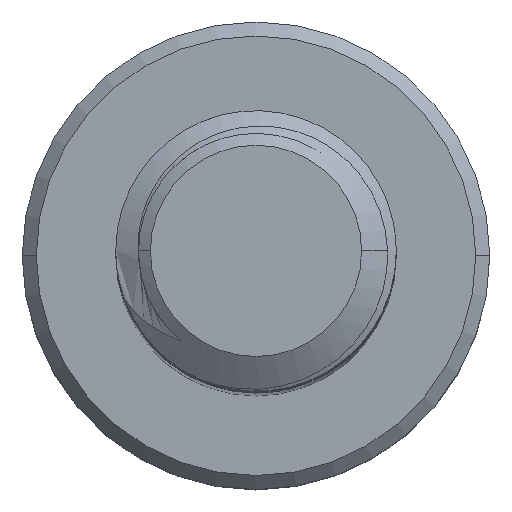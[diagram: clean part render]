
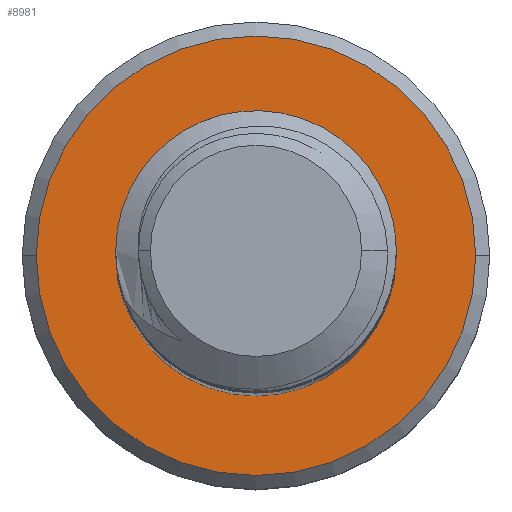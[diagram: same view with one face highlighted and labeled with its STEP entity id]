
A CAD part, top view. The second image highlights one B-rep face of the part: STEP entity #8981.
In plain terms, the highlighted planar face has unit normal (0, 0, 1).
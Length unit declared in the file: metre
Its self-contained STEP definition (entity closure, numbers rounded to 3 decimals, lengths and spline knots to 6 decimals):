
#104 = AXIS2_PLACEMENT_3D ( 'NONE', #6157, #10446, #283 ) ;
#127 = CARTESIAN_POINT ( 'NONE',  ( 0., 0., -0.06 ) ) ;
#180 = DIRECTION ( 'NONE',  ( -1., 0., 0. ) ) ;
#276 = CARTESIAN_POINT ( 'NONE',  ( 0., 0., -0.06 ) ) ;
#283 = DIRECTION ( 'NONE',  ( -1., 0., 0. ) ) ;
#398 = EDGE_LOOP ( 'NONE', ( #6577, #1598 ) ) ;
#597 = VERTEX_POINT ( 'NONE', #3068 ) ;
#1241 = DIRECTION ( 'NONE',  ( 0., 0., 1. ) ) ;
#1598 = ORIENTED_EDGE ( 'NONE', *, *, #5898, .F. ) ;
#1629 = VERTEX_POINT ( 'NONE', #5995 ) ;
#1670 = EDGE_CURVE ( 'NONE', #10464, #597, #2228, .T. ) ;
#1694 = AXIS2_PLACEMENT_3D ( 'NONE', #127, #2025, #180 ) ;
#1734 = FACE_OUTER_BOUND ( 'NONE', #7298, .T. ) ;
#1897 = FACE_BOUND ( 'NONE', #398, .T. ) ;
#2025 = DIRECTION ( 'NONE',  ( 0., 0., 1. ) ) ;
#2228 = CIRCLE ( 'NONE', #1694, 0.0047 ) ;
#2458 = CARTESIAN_POINT ( 'NONE',  ( 0.0047, 0., -0.06 ) ) ;
#2498 = DIRECTION ( 'NONE',  ( -1., 0., 0. ) ) ;
#2962 = DIRECTION ( 'NONE',  ( -1., 0., 0. ) ) ;
#2969 = AXIS2_PLACEMENT_3D ( 'NONE', #8523, #9279, #2498 ) ;
#3068 = CARTESIAN_POINT ( 'NONE',  ( -0.0047, 0., -0.06 ) ) ;
#3160 = ORIENTED_EDGE ( 'NONE', *, *, #7562, .T. ) ;
#3801 = CARTESIAN_POINT ( 'NONE',  ( -0.003, 0., -0.06 ) ) ;
#5051 = DIRECTION ( 'NONE',  ( -1., 0., 0. ) ) ;
#5484 = EDGE_CURVE ( 'NONE', #1629, #9229, #6360, .T. ) ;
#5898 = EDGE_CURVE ( 'NONE', #9229, #1629, #8366, .T. ) ;
#5995 = CARTESIAN_POINT ( 'NONE',  ( 0.003, 0., -0.06 ) ) ;
#6157 = CARTESIAN_POINT ( 'NONE',  ( 0., 0., -0.06 ) ) ;
#6360 = CIRCLE ( 'NONE', #104, 0.003 ) ;
#6577 = ORIENTED_EDGE ( 'NONE', *, *, #5484, .F. ) ;
#6902 = ORIENTED_EDGE ( 'NONE', *, *, #1670, .T. ) ;
#7298 = EDGE_LOOP ( 'NONE', ( #3160, #6902 ) ) ;
#7562 = EDGE_CURVE ( 'NONE', #597, #10464, #7650, .T. ) ;
#7650 = CIRCLE ( 'NONE', #2969, 0.0047 ) ;
#7856 = CARTESIAN_POINT ( 'NONE',  ( 0., 0., -0.06 ) ) ;
#8366 = CIRCLE ( 'NONE', #8733, 0.003 ) ;
#8523 = CARTESIAN_POINT ( 'NONE',  ( 0., 0., -0.06 ) ) ;
#8733 = AXIS2_PLACEMENT_3D ( 'NONE', #7856, #1241, #2962 ) ;
#8884 = AXIS2_PLACEMENT_3D ( 'NONE', #276, #10000, #5051 ) ;
#8981 = ADVANCED_FACE ( 'NONE', ( #1734, #1897 ), #9281, .F. ) ;
#9229 = VERTEX_POINT ( 'NONE', #3801 ) ;
#9279 = DIRECTION ( 'NONE',  ( 0., 0., 1. ) ) ;
#9281 = PLANE ( 'NONE',  #8884 ) ;
#10000 = DIRECTION ( 'NONE',  ( 0., 0., -1. ) ) ;
#10446 = DIRECTION ( 'NONE',  ( 0., 0., 1. ) ) ;
#10464 = VERTEX_POINT ( 'NONE', #2458 ) ;
